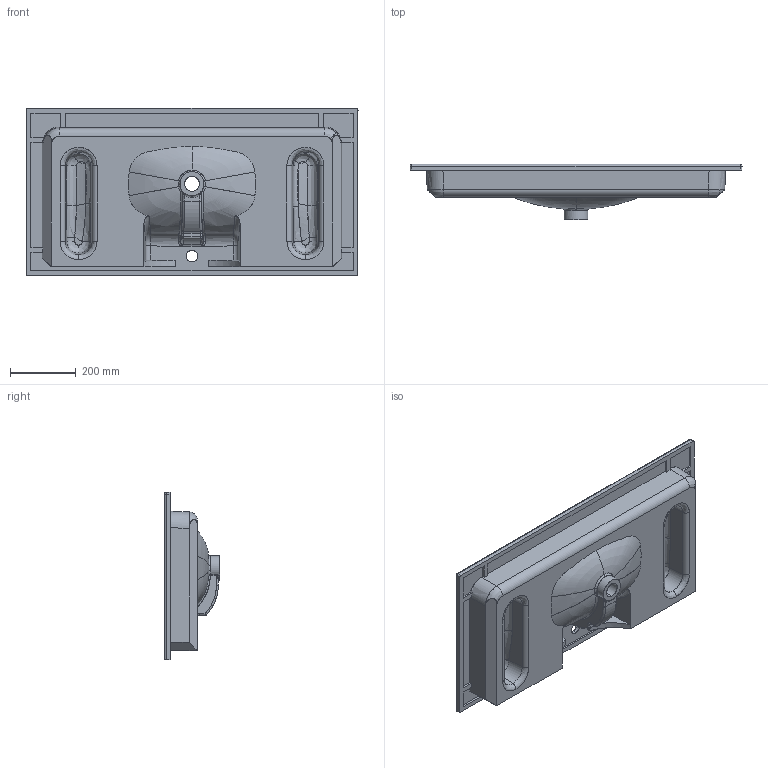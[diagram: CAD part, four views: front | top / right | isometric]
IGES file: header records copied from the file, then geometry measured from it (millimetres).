
Start section: SolidWorks IGES file using NURBS representation for surfaces
Global section: file name: C:\Users\User\Desktop\Soft\lavabi definitivi soft 51 m\soft 1010 x 515\definitivo soft 1010 x 515.IGS; native system: SolidWorks 2016; preprocessor: SolidWorks 2016; author: User; date: 200629.164006; units: millimetre
Bounding box: 1010 x 168 x 510 mm (x, y, z)
Surface area: 1487945.6 mm2 (no closed solid volume)
Topology: 0 solids, 0 shells, 204 faces, 3864 edges, 3856 vertices
Faces by surface type: bspline 204
